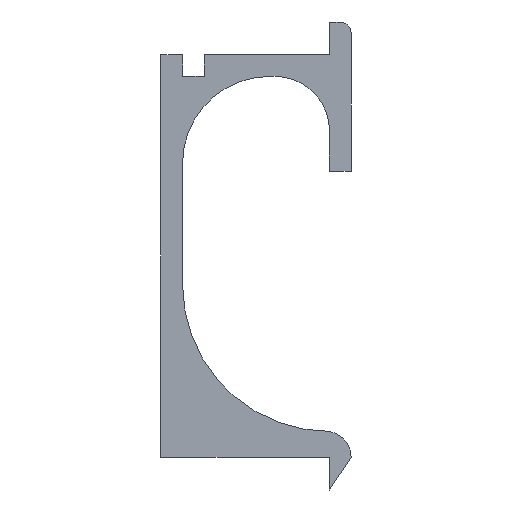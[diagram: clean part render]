
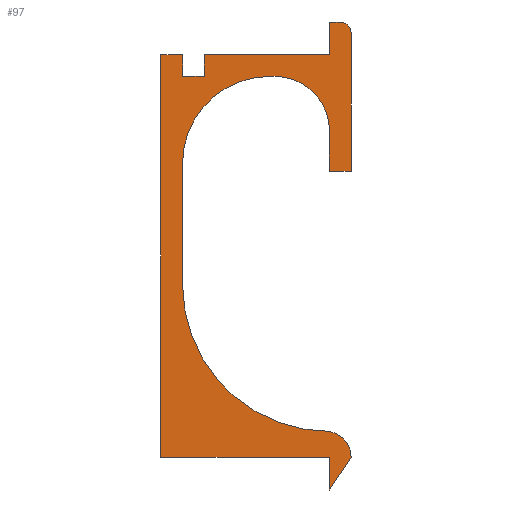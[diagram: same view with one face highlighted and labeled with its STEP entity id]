
A CAD part, left-side view. The second image highlights one B-rep face of the part: STEP entity #97.
In plain terms, the highlighted planar face has unit normal (-1, 0, 0).
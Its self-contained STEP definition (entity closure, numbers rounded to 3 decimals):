
#97 = ADVANCED_FACE( '', ( #143 ), #144, .F. );
#143 = FACE_OUTER_BOUND( '', #189, .T. );
#144 = PLANE( '', #190 );
#189 = EDGE_LOOP( '', ( #362, #363, #364, #365, #366, #367, #368, #369, #370, #371, #372, #373, #374, #375, #376, #377, #378, #379, #380, #381, #382 ) );
#190 = AXIS2_PLACEMENT_3D( '', #383, #384, #385 );
#362 = ORIENTED_EDGE( '', *, *, #448, .F. );
#363 = ORIENTED_EDGE( '', *, *, #388, .F. );
#364 = ORIENTED_EDGE( '', *, *, #392, .F. );
#365 = ORIENTED_EDGE( '', *, *, #395, .F. );
#366 = ORIENTED_EDGE( '', *, *, #398, .F. );
#367 = ORIENTED_EDGE( '', *, *, #401, .F. );
#368 = ORIENTED_EDGE( '', *, *, #404, .F. );
#369 = ORIENTED_EDGE( '', *, *, #407, .F. );
#370 = ORIENTED_EDGE( '', *, *, #410, .F. );
#371 = ORIENTED_EDGE( '', *, *, #413, .F. );
#372 = ORIENTED_EDGE( '', *, *, #416, .F. );
#373 = ORIENTED_EDGE( '', *, *, #419, .F. );
#374 = ORIENTED_EDGE( '', *, *, #422, .F. );
#375 = ORIENTED_EDGE( '', *, *, #425, .F. );
#376 = ORIENTED_EDGE( '', *, *, #428, .F. );
#377 = ORIENTED_EDGE( '', *, *, #431, .F. );
#378 = ORIENTED_EDGE( '', *, *, #434, .F. );
#379 = ORIENTED_EDGE( '', *, *, #437, .F. );
#380 = ORIENTED_EDGE( '', *, *, #440, .F. );
#381 = ORIENTED_EDGE( '', *, *, #443, .F. );
#382 = ORIENTED_EDGE( '', *, *, #446, .F. );
#383 = CARTESIAN_POINT( '', ( 0., 0., 0. ) );
#384 = DIRECTION( '', ( 1., 0., 0. ) );
#385 = DIRECTION( '', ( 0., 0., -1. ) );
#388 = EDGE_CURVE( '', #452, #454, #455, .T. );
#392 = EDGE_CURVE( '', #459, #452, #461, .T. );
#395 = EDGE_CURVE( '', #464, #459, #466, .T. );
#398 = EDGE_CURVE( '', #469, #464, #471, .T. );
#401 = EDGE_CURVE( '', #474, #469, #476, .T. );
#404 = EDGE_CURVE( '', #479, #474, #481, .T. );
#407 = EDGE_CURVE( '', #484, #479, #486, .T. );
#410 = EDGE_CURVE( '', #489, #484, #491, .T. );
#413 = EDGE_CURVE( '', #494, #489, #496, .T. );
#416 = EDGE_CURVE( '', #499, #494, #501, .T. );
#419 = EDGE_CURVE( '', #504, #499, #506, .T. );
#422 = EDGE_CURVE( '', #509, #504, #511, .T. );
#425 = EDGE_CURVE( '', #514, #509, #516, .T. );
#428 = EDGE_CURVE( '', #519, #514, #521, .T. );
#431 = EDGE_CURVE( '', #524, #519, #526, .T. );
#434 = EDGE_CURVE( '', #529, #524, #531, .T. );
#437 = EDGE_CURVE( '', #534, #529, #536, .T. );
#440 = EDGE_CURVE( '', #539, #534, #541, .T. );
#443 = EDGE_CURVE( '', #544, #539, #546, .T. );
#446 = EDGE_CURVE( '', #549, #544, #551, .T. );
#448 = EDGE_CURVE( '', #454, #549, #553, .T. );
#452 = VERTEX_POINT( '', #558 );
#454 = VERTEX_POINT( '', #561 );
#455 = LINE( '', #562, #563 );
#459 = VERTEX_POINT( '', #569 );
#461 = LINE( '', #572, #573 );
#464 = VERTEX_POINT( '', #577 );
#466 = LINE( '', #580, #581 );
#469 = VERTEX_POINT( '', #585 );
#471 = LINE( '', #588, #589 );
#474 = VERTEX_POINT( '', #593 );
#476 = LINE( '', #596, #597 );
#479 = VERTEX_POINT( '', #601 );
#481 = LINE( '', #604, #605 );
#484 = VERTEX_POINT( '', #609 );
#486 = LINE( '', #612, #613 );
#489 = VERTEX_POINT( '', #617 );
#491 = LINE( '', #620, #621 );
#494 = VERTEX_POINT( '', #625 );
#496 = LINE( '', #628, #629 );
#499 = VERTEX_POINT( '', #633 );
#501 = LINE( '', #636, #637 );
#504 = VERTEX_POINT( '', #641 );
#506 = LINE( '', #644, #645 );
#509 = VERTEX_POINT( '', #648 );
#511 = CIRCLE( '', #651, 2.417 );
#514 = VERTEX_POINT( '', #654 );
#516 = CIRCLE( '', #657, 13.5 );
#519 = VERTEX_POINT( '', #661 );
#521 = LINE( '', #664, #665 );
#524 = VERTEX_POINT( '', #668 );
#526 = CIRCLE( '', #671, 8. );
#529 = VERTEX_POINT( '', #675 );
#531 = LINE( '', #678, #679 );
#534 = VERTEX_POINT( '', #682 );
#536 = CIRCLE( '', #685, 5. );
#539 = VERTEX_POINT( '', #689 );
#541 = LINE( '', #692, #693 );
#544 = VERTEX_POINT( '', #697 );
#546 = LINE( '', #700, #701 );
#549 = VERTEX_POINT( '', #705 );
#551 = LINE( '', #708, #709 );
#553 = CIRCLE( '', #711, 1. );
#558 = CARTESIAN_POINT( '', ( 0., -15.5, 35. ) );
#561 = CARTESIAN_POINT( '', ( 0., -16.5, 35. ) );
#562 = CARTESIAN_POINT( '', ( 0., -15.5, 35. ) );
#563 = VECTOR( '', #714, 1. );
#569 = CARTESIAN_POINT( '', ( 0., -15.5, 32. ) );
#572 = CARTESIAN_POINT( '', ( 0., -15.5, 32. ) );
#573 = VECTOR( '', #718, 1. );
#577 = CARTESIAN_POINT( '', ( 0., -4., 32. ) );
#580 = CARTESIAN_POINT( '', ( 0., -4., 32. ) );
#581 = VECTOR( '', #721, 1. );
#585 = CARTESIAN_POINT( '', ( 0., -4., 30. ) );
#588 = CARTESIAN_POINT( '', ( 0., -4., 30. ) );
#589 = VECTOR( '', #724, 1. );
#593 = CARTESIAN_POINT( '', ( 0., -2., 30. ) );
#596 = CARTESIAN_POINT( '', ( 0., -2., 30. ) );
#597 = VECTOR( '', #727, 1. );
#601 = CARTESIAN_POINT( '', ( 0., -2., 32. ) );
#604 = CARTESIAN_POINT( '', ( 0., -2., 32. ) );
#605 = VECTOR( '', #730, 1. );
#609 = CARTESIAN_POINT( '', ( 0., 0., 32. ) );
#612 = CARTESIAN_POINT( '', ( 0., 0., 32. ) );
#613 = VECTOR( '', #733, 1. );
#617 = CARTESIAN_POINT( '', ( 0., 0., -5. ) );
#620 = CARTESIAN_POINT( '', ( 0., 0., -5. ) );
#621 = VECTOR( '', #736, 1. );
#625 = CARTESIAN_POINT( '', ( 0., -15.5, -5. ) );
#628 = CARTESIAN_POINT( '', ( 0., -15.5, -5. ) );
#629 = VECTOR( '', #739, 1. );
#633 = CARTESIAN_POINT( '', ( 0., -15.5, -8. ) );
#636 = CARTESIAN_POINT( '', ( 0., -15.5, -8. ) );
#637 = VECTOR( '', #742, 1. );
#641 = CARTESIAN_POINT( '', ( 0., -17.5, -5. ) );
#644 = CARTESIAN_POINT( '', ( 0., -17.5, -5. ) );
#645 = VECTOR( '', #745, 1. );
#648 = CARTESIAN_POINT( '', ( 0., -15.5, -2.619 ) );
#651 = AXIS2_PLACEMENT_3D( '', #750, #751, #752 );
#654 = CARTESIAN_POINT( '', ( 0., -2., 10.881 ) );
#657 = AXIS2_PLACEMENT_3D( '', #757, #758, #759 );
#661 = CARTESIAN_POINT( '', ( 0., -2., 22. ) );
#664 = CARTESIAN_POINT( '', ( 0., -2., 22. ) );
#665 = VECTOR( '', #762, 1. );
#668 = CARTESIAN_POINT( '', ( 0., -10., 30. ) );
#671 = AXIS2_PLACEMENT_3D( '', #767, #768, #769 );
#675 = CARTESIAN_POINT( '', ( 0., -10.5, 30. ) );
#678 = CARTESIAN_POINT( '', ( 0., -10.5, 30. ) );
#679 = VECTOR( '', #772, 1. );
#682 = CARTESIAN_POINT( '', ( 0., -15.5, 25. ) );
#685 = AXIS2_PLACEMENT_3D( '', #777, #778, #779 );
#689 = CARTESIAN_POINT( '', ( 0., -15.5, 21.3 ) );
#692 = CARTESIAN_POINT( '', ( 0., -15.5, 21.3 ) );
#693 = VECTOR( '', #782, 1. );
#697 = CARTESIAN_POINT( '', ( 0., -17.5, 21.3 ) );
#700 = CARTESIAN_POINT( '', ( 0., -17.5, 21.3 ) );
#701 = VECTOR( '', #785, 1. );
#705 = CARTESIAN_POINT( '', ( 0., -17.5, 34. ) );
#708 = CARTESIAN_POINT( '', ( 0., -17.5, 34. ) );
#709 = VECTOR( '', #788, 1. );
#711 = AXIS2_PLACEMENT_3D( '', #792, #793, #794 );
#714 = DIRECTION( '', ( 0., -1., 0. ) );
#718 = DIRECTION( '', ( 0., 0., 1. ) );
#721 = DIRECTION( '', ( 0., -1., 0. ) );
#724 = DIRECTION( '', ( 0., 0., 1. ) );
#727 = DIRECTION( '', ( 0., -1., 0. ) );
#730 = DIRECTION( '', ( 0., 0., -1. ) );
#733 = DIRECTION( '', ( 0., -1., 0. ) );
#736 = DIRECTION( '', ( 0., 0., 1. ) );
#739 = DIRECTION( '', ( 0., 1., 0. ) );
#742 = DIRECTION( '', ( 0., 0., 1. ) );
#745 = DIRECTION( '', ( 0., 0.555, -0.832 ) );
#750 = CARTESIAN_POINT( '', ( 0., -15.083, -5. ) );
#751 = DIRECTION( '', ( 1., 0., 0. ) );
#752 = DIRECTION( '', ( 0., -0.173, 0.985 ) );
#757 = CARTESIAN_POINT( '', ( 0., -15.5, 10.881 ) );
#758 = DIRECTION( '', ( -1., 0., 0. ) );
#759 = DIRECTION( '', ( 0., 1., 0. ) );
#762 = DIRECTION( '', ( 0., 0., -1. ) );
#767 = CARTESIAN_POINT( '', ( 0., -10., 22. ) );
#768 = DIRECTION( '', ( -1., 0., 0. ) );
#769 = DIRECTION( '', ( 0., 0., 1. ) );
#772 = DIRECTION( '', ( 0., 1., 0. ) );
#777 = CARTESIAN_POINT( '', ( 0., -10.5, 25. ) );
#778 = DIRECTION( '', ( -1., 0., 0. ) );
#779 = DIRECTION( '', ( 0., -1., 0. ) );
#782 = DIRECTION( '', ( 0., 0., 1. ) );
#785 = DIRECTION( '', ( 0., 1., 0. ) );
#788 = DIRECTION( '', ( 0., 0., -1. ) );
#792 = CARTESIAN_POINT( '', ( 0., -16.5, 34. ) );
#793 = DIRECTION( '', ( 1., 0., 0. ) );
#794 = DIRECTION( '', ( 0., 0., 1. ) );
